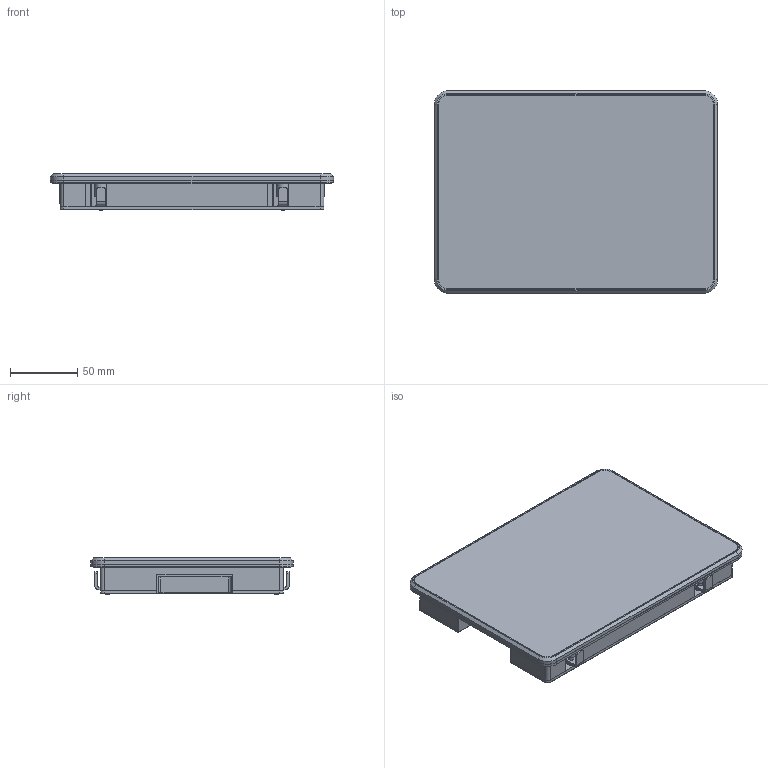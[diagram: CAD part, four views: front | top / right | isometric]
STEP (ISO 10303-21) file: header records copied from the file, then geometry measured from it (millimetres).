
FILE_DESCRIPTION((''),'2;1');
FILE_NAME('DMG10600T070-A5WTC','2022-12-27T',('Administrator'),(''),'PRO/ENGINEER BY PARAMETRIC TECHNOLOGY CORPORATION, 2014320','PRO/ENGINEER BY PARAMETRIC TECHNOLOGY CORPORATION, 2014320','');
FILE_SCHEMA(('CONFIG_CONTROL_DESIGN','SHAPE_APPEARANCE_LAYERS_GROUPS'));
Products named in the file (1): DMG10600T070-A5WTC
Bounding box: 210 x 150 x 26.8 mm (x, y, z)
Volume: 328702.8 mm3; surface area: 213678.4 mm2
Topology: 1 solids, 15 shells, 2914 faces, 7889 edges, 5281 vertices
Faces by surface type: plane 1816, cylinder 570, cone 498, torus 22, bspline 8
Entity records: 109424 total; most frequent: CARTESIAN_POINT 16615, DIRECTION 16255, ORIENTED_EDGE 15778, EDGE_CURVE 7889, AXIS2_PLACEMENT_3D 5537, VERTEX_POINT 5281, VECTOR 5181, LINE 5181
